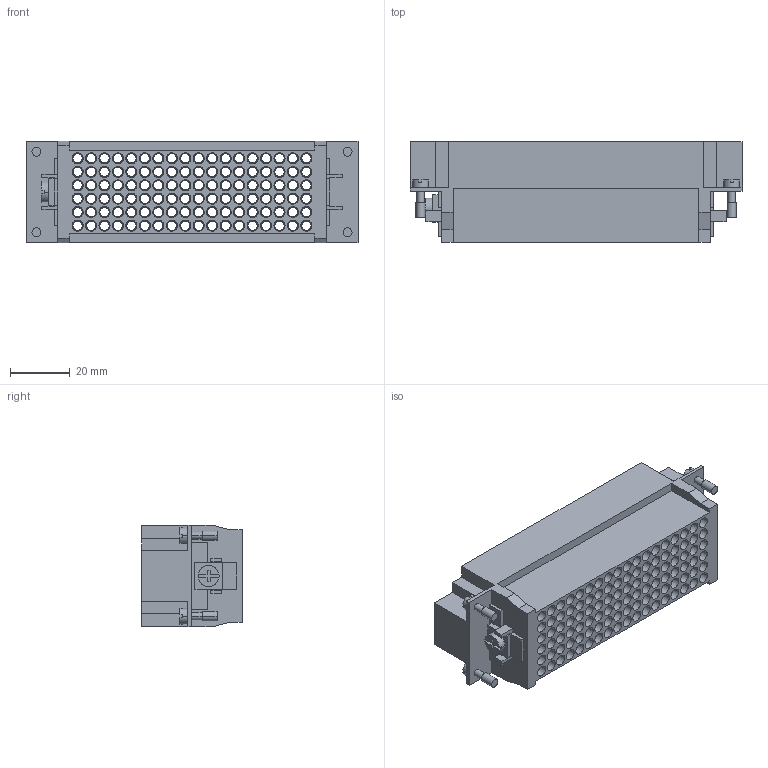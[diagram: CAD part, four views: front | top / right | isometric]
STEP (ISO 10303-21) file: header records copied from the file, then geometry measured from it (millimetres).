
FILE_DESCRIPTION (( 'STEP AP203' ), '1' );
FILE_NAME ('366486.STEP', '2025-06-27T12:15:05', ( '' ), ( '' ), 'SwSTEP 2.0', 'SolidWorks 2018', '' );
FILE_SCHEMA (( 'CONFIG_CONTROL_DESIGN' ));
Length unit declared in the file: millimetre
Products named in the file (1): 366486
Bounding box: 111 x 33.6 x 34 mm (x, y, z)
Volume: 44818.5 mm3; surface area: 41758.7 mm2
Topology: 1 solids, 1 shells, 1101 faces, 2600 edges, 1732 vertices
Faces by surface type: cylinder 676, plane 425
Entity records: 32839 total; most frequent: DIRECTION 6192, CARTESIAN_POINT 5434, ORIENTED_EDGE 5200, EDGE_CURVE 2600, AXIS2_PLACEMENT_3D 2490, VERTEX_POINT 1732, EDGE_LOOP 1548, CIRCLE 1388
